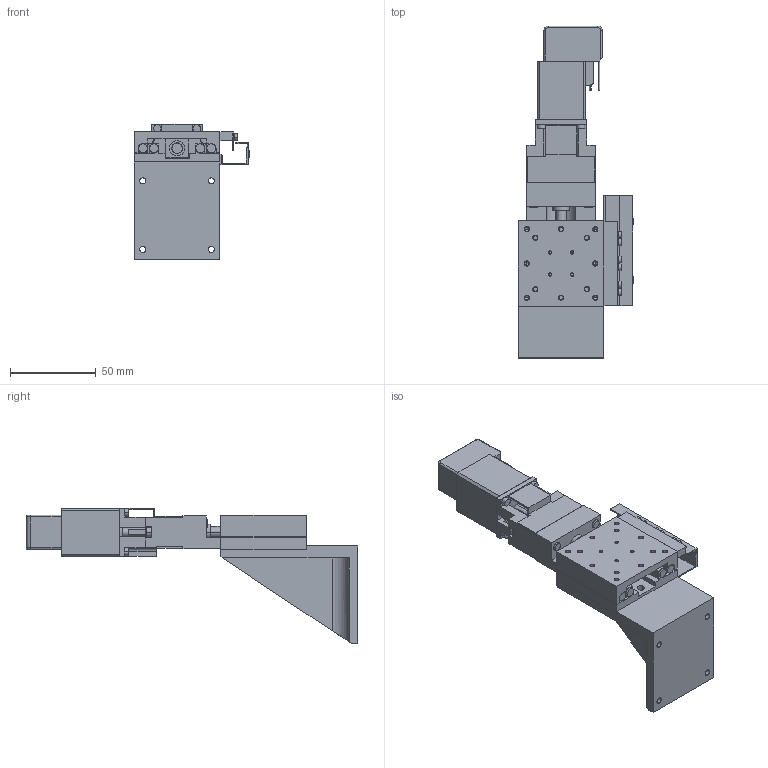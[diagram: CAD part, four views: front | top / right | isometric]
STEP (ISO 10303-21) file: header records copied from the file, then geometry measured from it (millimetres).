
FILE_DESCRIPTION(('STEP AP203'),'1');
FILE_NAME('C:/3D-Trans/3D_PZG513T-R□-ZA+240125.step','2024-03-14T08:49:11',(' '),(' '),'Spatial InterOp 3D',' ',' ');
FILE_SCHEMA(('CONFIG_CONTROL_DESIGN'));
Length unit declared in the file: millimetre
Products named in the file (7): 1; 2; 3; 4; 5; 6; 7
Bounding box: 67.4 x 193.5 x 79 mm (x, y, z)
Volume: 166961.3 mm3; surface area: 65661.8 mm2
Topology: 7 solids, 7 shells, 664 faces, 1710 edges, 1068 vertices
Faces by surface type: plane 327, cylinder 241, cone 92, torus 4
Entity records: 20643 total; most frequent: CARTESIAN_POINT 3778, DIRECTION 3586, ORIENTED_EDGE 3364, EDGE_CURVE 1682, AXIS2_PLACEMENT_3D 1268, VERTEX_POINT 1068, LINE 1050, VECTOR 1050
